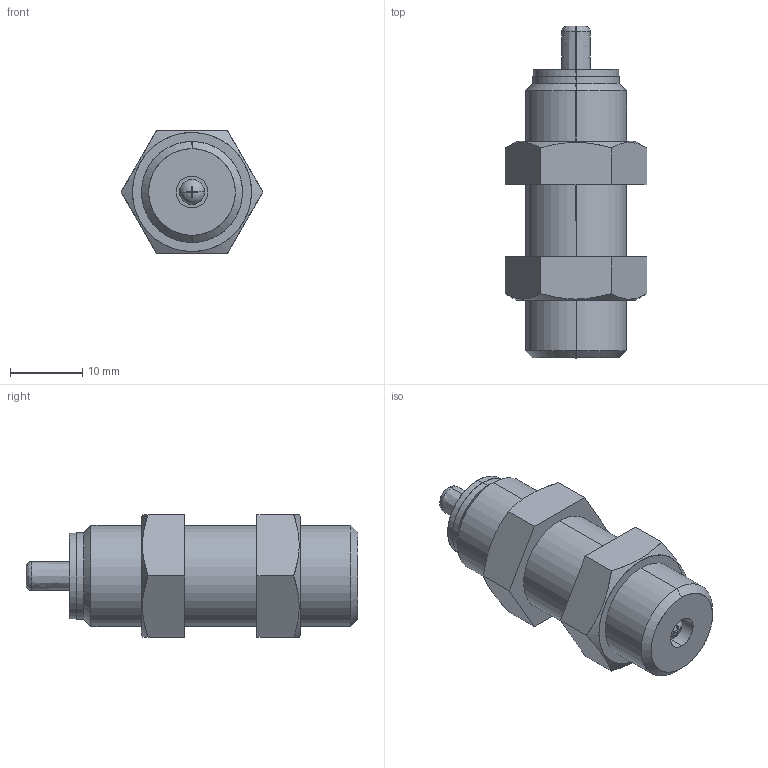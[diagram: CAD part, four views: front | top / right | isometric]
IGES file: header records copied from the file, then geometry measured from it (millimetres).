
Start section: SolidWorks IGES file using analytic representation for surfaces
Bounding box: 19.63 x 46 x 17 mm (x, y, z)
Surface area: 3450.2 mm2 (no closed solid volume)
Topology: 0 solids, 0 shells, 62 faces, 1066 edges, 1066 vertices
Faces by surface type: bspline 38, revolution 24
